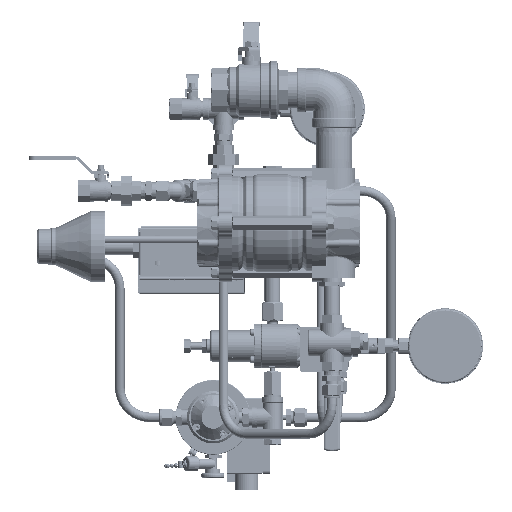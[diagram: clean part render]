
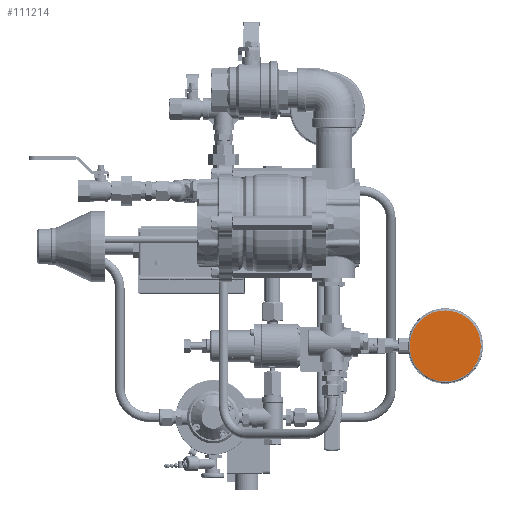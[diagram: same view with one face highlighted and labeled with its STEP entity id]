
A CAD part, top view. The second image highlights one B-rep face of the part: STEP entity #111214.
In plain terms, the highlighted planar face has unit normal (0, 0, 1).
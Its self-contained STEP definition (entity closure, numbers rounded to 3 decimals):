
#9516=PLANE('',#121867);
#15893=FACE_OUTER_BOUND('',#22997,.T.);
#22997=EDGE_LOOP('',(#97010));
#41634=CIRCLE('',#121854,47.5);
#51357=VERTEX_POINT('',#208800);
#66624=EDGE_CURVE('',#51357,#51357,#41634,.T.);
#97010=ORIENTED_EDGE('',*,*,#66624,.F.);
#111214=ADVANCED_FACE('',(#15893),#9516,.F.);
#121854=AXIS2_PLACEMENT_3D('',#208802,#149600,#149601);
#121867=AXIS2_PLACEMENT_3D('',#209159,#149629,#149630);
#149600=DIRECTION('center_axis',(0.,0.,
-1.));
#149601=DIRECTION('ref_axis',(0.,1.,0.));
#149629=DIRECTION('center_axis',(0.,0.,
-1.));
#149630=DIRECTION('ref_axis',(0.,1.,0.));
#208800=CARTESIAN_POINT('',(585.864,-1008.666,-981.484));
#208802=CARTESIAN_POINT('Origin',(585.864,-961.166,-981.484));
#209159=CARTESIAN_POINT('Origin',(585.864,-961.166,-981.484));
